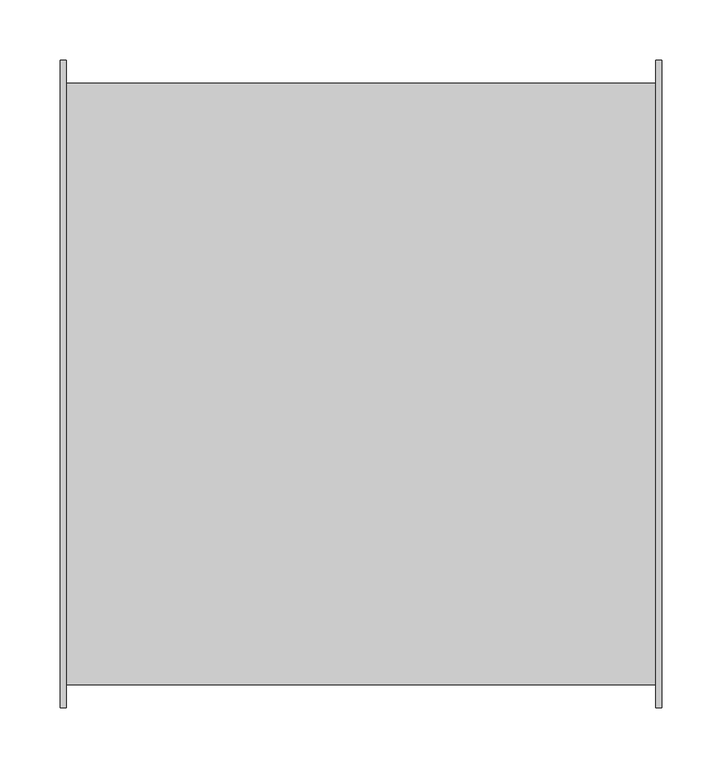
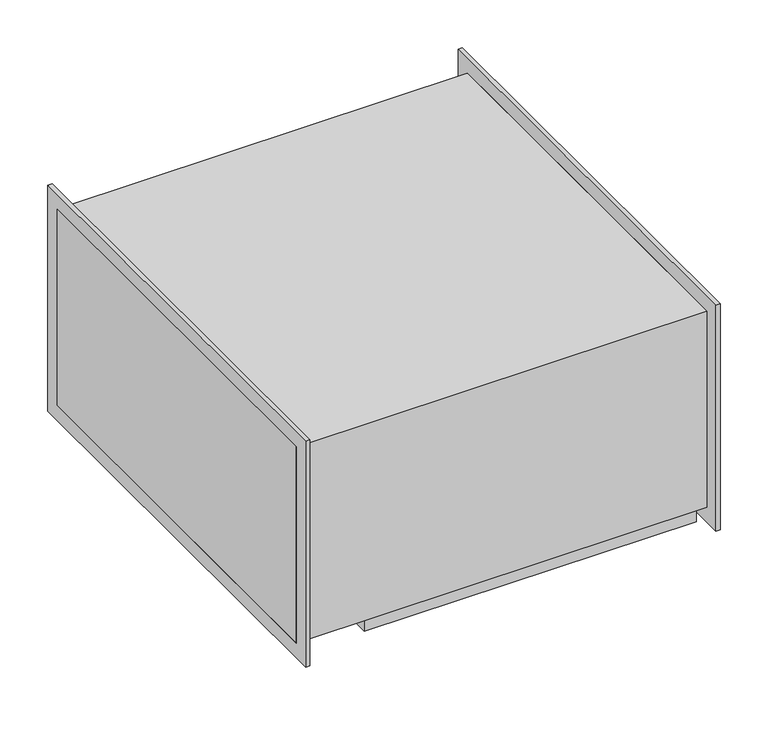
"""IFC4 building model written with IfcOpenShell, lengths in millimetres: unitary equipment geometry, VE-Wentylator-ParaForma-Harmann-DRB_EC-Nawiewny : 050/25/2000EC."""

import ifcopenshell
import ifcopenshell.guid

model = None  # the IFC model being written
_history = None  # IfcOwnerHistory: only IFC2X3 demands one
_inside = {}  # id of a spatial element -> (the spatial element, [elements in it])
_under = {}  # id of a project, library or spatial element -> (it, [spatial elements below it])
_declared = {}  # id of a project -> (the project, [libraries it declares])
_typed = {}  # id of a type object -> (the type object, [elements of that type])
_made_of = {}  # id of a material, layer set ... -> (it, [elements and type objects made of it])


def new_model(schema):
    """Start an empty IFC model of exactly this schema.

    Asked for "IFC4X3", IfcOpenShell would pick the latest addendum, in which some entities
    have other attributes; the version numbers below select the first issue.
    IFC2X3 requires an IfcOwnerHistory on every rooted entity: one is made here for all.
    """
    global model, _history
    if schema == "IFC4X3":
        model = ifcopenshell.file(schema_version=(4, 3, 0, 0))
    else:
        model = ifcopenshell.file(schema=schema)
    _inside.clear()
    _under.clear()
    _declared.clear()
    _typed.clear()
    _made_of.clear()
    _history = None
    if model.schema == "IFC2X3":
        org = make("IfcOrganization", Name="unknown")
        user = make(
            "IfcPersonAndOrganization",
            ThePerson=make("IfcPerson", FamilyName="unknown"),
            TheOrganization=org,
        )
        app = make(
            "IfcApplication",
            ApplicationDeveloper=org,
            Version="unknown",
            ApplicationFullName="unknown",
            ApplicationIdentifier="unknown",
        )
        _history = make(
            "IfcOwnerHistory",
            OwningUser=user,
            OwningApplication=app,
            ChangeAction="ADDED",
            CreationDate=0,
        )
    return model


def make(cls, **values):
    """One entity of the class cls with the attributes given. An attribute that is None is left unset."""
    return model.create_entity(
        cls, **{name: value for name, value in values.items() if value is not None}
    )


def rooted(cls, **values):
    """An entity with a GlobalId (a new one), such as an element, a storey or a relation."""
    return make(cls, GlobalId=ifcopenshell.guid.new(), OwnerHistory=_history, **values)


def si_unit(unit_type, name, prefix=None):
    """IfcSIUnit, for example si_unit("LENGTHUNIT", "METRE", prefix="MILLI")."""
    return make("IfcSIUnit", UnitType=unit_type, Prefix=prefix, Name=name)


def assignment(units):
    """IfcUnitAssignment: the units of a project."""
    return None if units is None else make("IfcUnitAssignment", Units=units)


def point(xyz):
    """IfcCartesianPoint."""
    return None if xyz is None else make("IfcCartesianPoint", Coordinates=xyz)


def direction(xyz):
    """IfcDirection."""
    return None if xyz is None else make("IfcDirection", DirectionRatios=xyz)


def frame(location, z_axis=None, x_axis=None):
    """IfcAxis2Placement3D, a coordinate frame: its origin and axes. An axis left out is left unset."""
    return make(
        "IfcAxis2Placement3D",
        Location=point(location),
        Axis=direction(z_axis),
        RefDirection=direction(x_axis),
    )


def frame_2d(location, x_axis=None):
    """IfcAxis2Placement2D, a coordinate frame in the plane: its origin and x axis."""
    return make(
        "IfcAxis2Placement2D", Location=point(location), RefDirection=direction(x_axis)
    )


def origin():
    """The frame at (0, 0, 0) with its axes left unset."""
    return frame((0.0, 0.0, 0.0))


def place(relative_to, where):
    """IfcLocalPlacement: puts the frame where relative to a parent placement (None: the world)."""
    return make(
        "IfcLocalPlacement", PlacementRelTo=relative_to, RelativePlacement=where
    )


def context(
    kind, dimensions, precision=None, world=None, true_north=None, identifier=None
):
    """IfcGeometricRepresentationContext, for example the 3D "Model" context."""
    return make(
        "IfcGeometricRepresentationContext",
        ContextIdentifier=identifier,
        ContextType=kind,
        CoordinateSpaceDimension=dimensions,
        Precision=precision,
        WorldCoordinateSystem=world,
        TrueNorth=true_north,
    )


def project(units=None, contexts=None):
    """IfcProject with its units and contexts."""
    return rooted(
        "IfcProject",
        Name="project",
        RepresentationContexts=contexts,
        UnitsInContext=assignment(units),
    )


def spatial(cls, under=None, at=None, **own):
    """A site, building, storey or space (cls), placed at a placement, below another one or the project."""
    s = rooted(cls, ObjectPlacement=at, **own)
    if under is not None:
        _under.setdefault(under.id(), (under, []))[1].append(s)
    return s


def polyline(points):
    """IfcPolyline through the points."""
    return make("IfcPolyline", Points=[point(p) for p in points])


def circle_curve(where, radius):
    """IfcCircle in the frame where."""
    return make("IfcCircle", Position=where, Radius=radius)


def trimmed(basis, trim1, trim2, sense, master):
    """IfcTrimmedCurve: the piece of a basis curve between two trims."""
    return make(
        "IfcTrimmedCurve",
        BasisCurve=basis,
        Trim1=trim1,
        Trim2=trim2,
        SenseAgreement=sense,
        MasterRepresentation=master,
    )


def segment(curve, same_sense, transition):
    """IfcCompositeCurveSegment."""
    return make(
        "IfcCompositeCurveSegment",
        Transition=transition,
        SameSense=same_sense,
        ParentCurve=curve,
    )


def composite_curve(segments, self_intersect=None):
    """IfcCompositeCurve: segments joined end to end."""
    return make("IfcCompositeCurve", Segments=segments, SelfIntersect=self_intersect)


def outline(outer, holes=None, kind="AREA"):
    """IfcArbitraryClosedProfileDef: a profile drawn as a closed curve; with holes, ...WithVoids."""
    if holes is None:
        return make("IfcArbitraryClosedProfileDef", ProfileType=kind, OuterCurve=outer)
    return make(
        "IfcArbitraryProfileDefWithVoids",
        ProfileType=kind,
        OuterCurve=outer,
        InnerCurves=holes,
    )


def extrude(swept, where, along, depth):
    """IfcExtrudedAreaSolid: the profile swept, set in the frame where, extruded along a direction by depth."""
    return make(
        "IfcExtrudedAreaSolid",
        SweptArea=swept,
        Position=where,
        ExtrudedDirection=direction(along),
        Depth=depth,
    )


def faces_of(points, faces, orient=None, outer=None):
    """IfcFace entities. A face is a list of loops; a loop is a list of indices into points, from 0.

    orient and outer hold one flag for each loop. By default every Orientation is true, the
    first loop of a face is its IfcFaceOuterBound and the others are IfcFaceBound.
    """
    made = []
    for i, loops in enumerate(faces):
        bounds = []
        for j, loop in enumerate(loops):
            is_outer = j == 0 if outer is None else outer[i][j]
            bounds.append(
                make(
                    "IfcFaceOuterBound" if is_outer else "IfcFaceBound",
                    Bound=make("IfcPolyLoop", Polygon=[points[k] for k in loop]),
                    Orientation=True if orient is None else orient[i][j],
                )
            )
        made.append(make("IfcFace", Bounds=bounds))
    return made


def faceted_brep(points, faces, orient=None, outer=None, voids=None):
    """IfcFacetedBrep: a solid bounded by flat faces; with voids (closed shells), ...WithVoids."""
    shared = [point(p) for p in points]
    hull = make("IfcClosedShell", CfsFaces=faces_of(shared, faces, orient, outer))
    if voids is None:
        return make("IfcFacetedBrep", Outer=hull)
    return make(
        "IfcFacetedBrepWithVoids",
        Outer=hull,
        Voids=[
            make(cls, CfsFaces=faces_of(shared, fs, o, b)) for cls, fs, o, b in voids
        ],
    )


def shape(context_of_items, identifier, shape_type, items):
    """IfcShapeRepresentation: the items that make up one representation, for example the "Body"."""
    return make(
        "IfcShapeRepresentation",
        ContextOfItems=context_of_items,
        RepresentationIdentifier=identifier,
        RepresentationType=shape_type,
        Items=items,
    )


def source(mapping_origin, context_of_items, identifier, shape_type, items):
    """IfcRepresentationMap: a shape defined once, which mapped items show again and again."""
    return make(
        "IfcRepresentationMap",
        MappingOrigin=mapping_origin,
        MappedRepresentation=shape(context_of_items, identifier, shape_type, items),
    )


def transform(
    local_origin,
    x_axis=None,
    y_axis=None,
    z_axis=None,
    scale=None,
    scale2=None,
    scale3=None,
    uniform=True,
):
    """IfcCartesianTransformationOperator3D, or its non-uniform kind. x_axis, y_axis, z_axis: its Axis1, 2, 3."""
    if uniform:
        return make(
            "IfcCartesianTransformationOperator3D",
            Axis1=direction(x_axis),
            Axis2=direction(y_axis),
            LocalOrigin=point(local_origin),
            Scale=scale,
            Axis3=direction(z_axis),
        )
    return make(
        "IfcCartesianTransformationOperator3DnonUniform",
        Axis1=direction(x_axis),
        Axis2=direction(y_axis),
        LocalOrigin=point(local_origin),
        Scale=scale,
        Axis3=direction(z_axis),
        Scale2=scale2,
        Scale3=scale3,
    )


def mapped(mapping_source, mapping_target):
    """IfcMappedItem: shows the shape of a source again, moved by a transform."""
    return make(
        "IfcMappedItem", MappingSource=mapping_source, MappingTarget=mapping_target
    )


def made_of(thing, what):
    """Note that an element or type object is made of a material, layer set ...; save() writes the relation."""
    if what is not None:
        _made_of.setdefault(what.id(), (what, []))[1].append(thing)
    return thing


def element(
    cls,
    number,
    at=None,
    inside=None,
    cuts=None,
    type_object=None,
    material=None,
    context=None,
    identifier="Body",
    shape_type=None,
    held_by="IfcProductDefinitionShape",
    body=None,
    shapes=None,
    **own,
):
    """One element of the class cls, such as IfcWall. Its Tag is "e" and its number.

    at: its placement. inside: the storey or other place that contains it. cuts: it is an
    opening in that element (IfcRelVoidsElement). A single representation is given by context,
    identifier, shape_type and body (its items); several are given by shapes. held_by: the class
    of the entity that holds the representations. save() writes the other relations.
    """
    e = rooted(cls, Tag="e%d" % number, ObjectPlacement=at, **own)
    if body is not None:
        shapes = [shape(context, identifier, shape_type, body)]
    if shapes is not None:
        e.Representation = make(held_by, Representations=shapes)
    if inside is not None:
        _inside.setdefault(inside.id(), (inside, []))[1].append(e)
    if cuts is not None:
        rooted(
            "IfcRelVoidsElement", RelatingBuildingElement=cuts, RelatedOpeningElement=e
        )
    if type_object is not None:
        _typed.setdefault(type_object.id(), (type_object, []))[1].append(e)
    return made_of(e, material)


def aggregate(whole, parts):
    """IfcRelAggregates: a whole, such as a stair, and the parts it consists of."""
    return rooted("IfcRelAggregates", RelatingObject=whole, RelatedObjects=parts)


def save(model, path):
    """Write the relations noted so far, then the file.

    IfcRelAggregates (storeys below a building ...), IfcRelContainedInSpatialStructure (elements
    in a storey), IfcRelDefinesByType, IfcRelAssociatesMaterial and IfcRelDeclares: one each for
    every whole, place, type object, material and project.
    """
    for whole, parts in _under.values():
        aggregate(whole, parts)
    for where, things in _inside.values():
        rooted(
            "IfcRelContainedInSpatialStructure",
            RelatedElements=things,
            RelatingStructure=where,
        )
    for kind, things in _typed.values():
        rooted("IfcRelDefinesByType", RelatedObjects=things, RelatingType=kind)
    for what, things in _made_of.values():
        rooted("IfcRelAssociatesMaterial", RelatedObjects=things, RelatingMaterial=what)
    for by, libraries in _declared.values():
        rooted("IfcRelDeclares", RelatingContext=by, RelatedDefinitions=libraries)
    model.write(path)


def plane_surface(at):
    """IfcPlane: the flat surface through the origin of the frame at, square to its z axis."""
    return make("IfcPlane", Position=at)


def revolved_surface(curve, axis_point, axis_direction):
    """IfcSurfaceOfRevolution: the curve turned about the line through axis_point along axis_direction."""
    return make(
        "IfcSurfaceOfRevolution",
        SweptCurve=make("IfcArbitraryOpenProfileDef", ProfileType="CURVE", Curve=curve),
        AxisPosition=make("IfcAxis1Placement", Location=point(axis_point), Axis=direction(axis_direction)),
    )


def advanced_brep(points, edges, surfaces, faces):
    """IfcAdvancedBrep: a solid bounded by faces that lie on surfaces and meet in shared edges.

    An edge is (start, end): straight between two places in points (the first is 0);
    or (start, end, curve); or (start, end, curve, False) where it runs against its curve.
    A face is (place in surfaces, loops), or (place, loops, False) where it looks against
    its surface's normal. A loop lists edges by number (the first is 1), with a minus sign
    where the edge is run from its end to its start. The first loop is the outer one.
    """
    corners = [point(p) for p in points]
    vertices = [make("IfcVertexPoint", VertexGeometry=c) for c in corners]
    made = []
    for start, end, *more in edges:
        made.append(
            make(
                "IfcEdgeCurve",
                EdgeStart=vertices[start],
                EdgeEnd=vertices[end],
                EdgeGeometry=more[0] if more else make("IfcPolyline", Points=[corners[start], corners[end]]),
                SameSense=more[1] if len(more) > 1 else True,
            )
        )
    hull = []
    for where, loops, *sense in faces:
        bounds = []
        for j, loop in enumerate(loops):
            ring = [make("IfcOrientedEdge", EdgeElement=made[abs(k) - 1], Orientation=k > 0) for k in loop]
            bounds.append(
                make(
                    "IfcFaceOuterBound" if j == 0 else "IfcFaceBound",
                    Bound=make("IfcEdgeLoop", EdgeList=ring),
                    Orientation=True,
                )
            )
        hull.append(make("IfcAdvancedFace", Bounds=bounds, FaceSurface=surfaces[where], SameSense=sense[0] if sense else True))
    return make("IfcAdvancedBrep", Outer=make("IfcClosedShell", CfsFaces=hull))


def unitary_equipment_8736fc89(model_context):
    return source(origin(), model_context, "Body", "SolidModel", [
        faceted_brep([(-158.5, -233.6, -152.2), (-158.5, -233.6, -125.2), (-158.5, 148.4, -125.2), (-158.5, 148.4, -152.2), (241.5, -233.6, -152.2), (241.5, 148.4, -152.2), (241.5, 148.4, -125.2), (241.5, -233.6, -125.2), (-153.5, 143.4, -152.2), (-153.5, -228.6, -152.2), (236.5, -228.6, -152.2), (236.5, 143.4, -152.2), (-153.5, 143.4, -125.2), (-153.5, -228.6, -125.2), (236.5, -228.6, -125.2), (236.5, 143.4, -125.2), (-245.0, 250.0, -125.2), (-245.0, -250.0, -125.2), (-245.0, -250.0, -125.0), (-245.0, 250.0, -125.0), (245.0, -250.0, -125.2), (245.0, 250.0, -125.2), (245.0, 250.0, -125.0), (245.0, -250.0, -125.0), (250.0, -250.0, -125.0), (250.0, -250.0, 125.0), (245.0, -250.0, 125.0), (245.0, -250.0, 124.8), (-245.0, -250.0, 124.8), (-245.0, -250.0, 125.0), (-250.0, -250.0, 125.0), (-250.0, -250.0, -125.0), (245.0, 250.0, 124.8), (-245.0, 250.0, 124.8), (245.0, 250.0, 125.0), (250.0, 250.0, 125.0), (250.0, 250.0, -125.0), (-250.0, 250.0, -125.0), (-250.0, 250.0, 125.0), (-245.0, 250.0, 125.0)], [[[0, 1, 2, 3]], [[4, 5, 6, 7]], [[1, 0, 4, 7]], [[3, 2, 6, 5]], [[0, 3, 5, 4], [8, 9, 10, 11]], [[8, 12, 13, 9]], [[10, 14, 15, 11]], [[9, 13, 14, 10]], [[12, 8, 11, 15]], [[16, 17, 18, 19]], [[20, 21, 22, 23]], [[17, 20, 23, 24, 25, 26, 27, 28, 29, 30, 31, 18]], [[28, 27, 32, 33]], [[33, 32, 34, 35, 36, 22, 21, 16, 19, 37, 38, 39]], [[13, 12, 15, 14]], [[17, 16, 21, 20], [2, 1, 7, 6]], [[31, 30, 38, 37]], [[39, 29, 28, 33]], [[38, 30, 29, 39]], [[31, 37, 19, 18]], [[26, 34, 32, 27]], [[24, 36, 35, 25]], [[34, 26, 25, 35]], [[36, 24, 23, 22]]]),
        extrude(outline(polyline([(-269.2, -144.0), (-269.2, 144.0), (269.2, 144.0), (269.2, -144.0), (-269.2, -144.0)]), holes=[polyline([(-250.0, -125.0), (250.0, -125.0), (250.0, 125.0), (-250.0, 125.0), (-250.0, -125.0)])]), frame((245.0, 0.0, 0.0), z_axis=(1.0, 0.0, 0.0), x_axis=(0.0, 1.0, 0.0)), (0.0, 0.0, 1.0), 5.0),
        extrude(outline(polyline([(-269.2, -144.0), (-269.2, 144.0), (269.2, 144.0), (269.2, -144.0), (-269.2, -144.0)]), holes=[polyline([(-250.0, -125.0), (250.0, -125.0), (250.0, 125.0), (-250.0, 125.0), (-250.0, -125.0)])]), frame((-250.0, 0.0, 0.0), z_axis=(1.0, 0.0, 0.0), x_axis=(0.0, 1.0, 0.0)), (0.0, 0.0, 1.0), 5.0),
        extrude(outline(composite_curve([segment(polyline([(77.5, 28.7), (-22.5, 28.7)]), True, "CONTINUOUS"), segment(trimmed(circle_curve(frame_2d((-22.5, 33.7)), 5.0), [point((-22.5, 28.7))], [point((-27.5, 33.7))], False, "CARTESIAN"), True, "CONTINUOUS"), segment(polyline([(-27.5, 33.7), (-27.5, 118.7)]), True, "CONTINUOUS"), segment(trimmed(circle_curve(frame_2d((-22.5, 118.7)), 5.0), [point((-27.5, 118.7))], [point((-22.5, 123.7))], False, "CARTESIAN"), True, "CONTINUOUS"), segment(polyline([(-22.5, 123.7), (77.5, 123.7)]), True, "CONTINUOUS"), segment(trimmed(circle_curve(frame_2d((77.5, 118.7)), 5.0), [point((77.5, 123.7))], [point((82.5, 118.7))], False, "CARTESIAN"), True, "CONTINUOUS"), segment(polyline([(82.5, 118.7), (82.5, 33.7)]), True, "CONTINUOUS"), segment(trimmed(circle_curve(frame_2d((77.5, 33.7)), 5.0), [point((82.5, 33.7))], [point((77.5, 28.7))], False, "CARTESIAN"), True, "CONTINUOUS")], self_intersect=False)), frame((0.0, 0.0, -174.7), z_axis=(0.0, 0.0, 1.0), x_axis=(1.0, 0.0, 0.0)), (0.0, 0.0, 1.0), 49.5),
        advanced_brep(
        [(27.5, -91.15, -140.2), (27.5, 5.95, -140.2), (27.5, -106.35, -125.2), (27.5, 21.15, -125.2)],
        [
            (0, 1, circle_curve(frame((27.5, -42.6, -140.2), z_axis=(0.0, 0.0, -1.0), x_axis=(0.0, -1.0, 0.0)), 48.55)),
            (1, 0, circle_curve(frame((27.5, -42.6, -140.2), z_axis=(0.0, 0.0, -1.0), x_axis=(0.0, 1.0, 0.0)), 48.55)),
            (2, 3, circle_curve(frame((27.5, -42.6, -125.2), z_axis=(0.0, 0.0, 1.0), x_axis=(0.0, 1.0, 0.0)), 63.75)),
            (3, 2, circle_curve(frame((27.5, -42.6, -125.2), z_axis=(0.0, 0.0, 1.0), x_axis=(0.0, -1.0, 0.0)), 63.75)),
            (3, 1),
            (0, 2),
        ],
        [
            plane_surface(frame((27.5, -42.6, -140.2), z_axis=(0.0, 0.0, -1.0), x_axis=(-1.0, 0.0, 0.0))),
            plane_surface(frame((27.5, -42.6, -125.2), z_axis=(0.0, 0.0, 1.0), x_axis=(-1.0, 0.0, 0.0))),
            revolved_surface(polyline([(27.5, -91.14999999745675, -140.2), (27.5, -106.35, -125.2)]), (27.5, -42.6, -188.1111842), (0.0, 0.0, 1.0)),
            revolved_surface(polyline([(27.5, 5.949999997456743, -140.2), (27.5, 21.15, -125.2)]), (27.5, -42.6, -188.1111842), (0.0, 0.0, 1.0)),
        ],
        [
            (0, [[1, 2]]),
            (1, [[3, 4]]),
            (2, [[-4, 5, -1, 6]]),
            (3, [[-3, -6, -2, -5]]),
        ],
    ),
    ])


if __name__ == "__main__":
    model = new_model("IFC4")
    model_context = context("Model", 3, world=origin())
    ifc_project = project(units=[si_unit("LENGTHUNIT", "METRE", prefix="MILLI")], contexts=[model_context])
    site = spatial("IfcSite", under=ifc_project)
    building = spatial("IfcBuilding", under=site)
    placement = place(None, origin())
    unitary_equipment_shape = unitary_equipment_8736fc89(model_context)
    element("IfcUnitaryEquipment", 1, ObjectType="VE-Wentylator-ParaForma-Harmann-DRB_EC-Nawiewny : 050/25/2000EC", at=placement, inside=building, context=model_context, shape_type="MappedRepresentation", body=[
        mapped(unitary_equipment_shape, transform((0.0, 0.0, 0.0), x_axis=(1.0, 0.0, 0.0), y_axis=(0.0, 1.0, 0.0), z_axis=(0.0, 0.0, 1.0))),
    ])
    save(model, "model.ifc")
